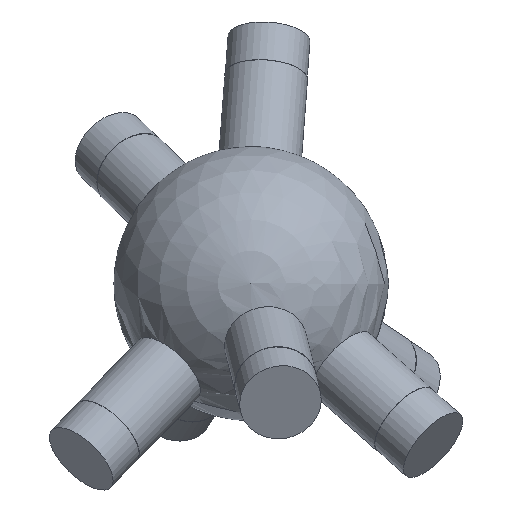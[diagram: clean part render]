
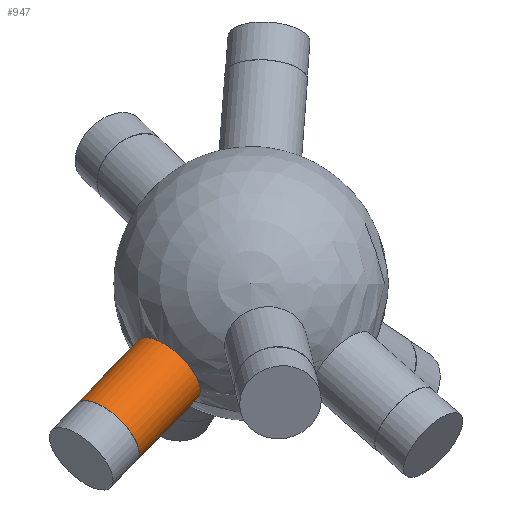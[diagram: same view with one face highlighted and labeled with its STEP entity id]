
A CAD part, top view. The second image highlights one B-rep face of the part: STEP entity #947.
In plain terms, the highlighted cylindrical face has radius 6 mm (diameter 12 mm), a full revolution.
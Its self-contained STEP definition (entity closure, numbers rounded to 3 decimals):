
#35 = SPHERICAL_SURFACE('',#36,20.);
#36 = AXIS2_PLACEMENT_3D('',#37,#38,#39);
#37 = CARTESIAN_POINT('',(0.,0.,0.));
#38 = DIRECTION('',(0.,0.,1.));
#39 = DIRECTION('',(1.,0.,-0.));
#437 = EDGE_CURVE('',#438,#438,#440,.T.);
#438 = VERTEX_POINT('',#439);
#439 = CARTESIAN_POINT('',(-16.306,-8.222,
    8.155));
#440 = SURFACE_CURVE('',#441,(#446,#508),.PCURVE_S1.);
#441 = CIRCLE('',#442,6.);
#442 = AXIS2_PLACEMENT_3D('',#443,#444,#445);
#443 = CARTESIAN_POINT('',(-11.995,-12.394,8.155)
  );
#444 = DIRECTION('',(-0.629,-0.65,0.427));
#445 = DIRECTION('',(0.719,-0.695,0.)
  );
#446 = PCURVE('',#35,#447);
#447 = DEFINITIONAL_REPRESENTATION('',(#448),#507);
#448 = B_SPLINE_CURVE_WITH_KNOTS('',8,(#449,#450,#451,#452,#453,#454,
    #455,#456,#457,#458,#459,#460,#461,#462,#463,#464,#465,#466,#467,
    #468,#469,#470,#471,#472,#473,#474,#475,#476,#477,#478,#479,#480,
    #481,#482,#483,#484,#485,#486,#487,#488,#489,#490,#491,#492,#493,
    #494,#495,#496,#497,#498,#499,#500,#501,#502,#503,#504,#505,#506),
  .UNSPECIFIED.,.F.,.F.,(9,7,7,7,7,7,7,7,9),(3.142,
    3.927,4.614,5.817,6.719,
    7.395,7.903,8.664,9.425),
  .UNSPECIFIED.);
#449 = CARTESIAN_POINT('',(3.609,0.42));
#450 = CARTESIAN_POINT('',(3.613,0.391));
#451 = CARTESIAN_POINT('',(3.621,0.362));
#452 = CARTESIAN_POINT('',(3.632,0.334));
#453 = CARTESIAN_POINT('',(3.646,0.307));
#454 = CARTESIAN_POINT('',(3.662,0.282));
#455 = CARTESIAN_POINT('',(3.681,0.258));
#456 = CARTESIAN_POINT('',(3.702,0.237));
#457 = CARTESIAN_POINT('',(3.744,0.201));
#458 = CARTESIAN_POINT('',(3.766,0.186));
#459 = CARTESIAN_POINT('',(3.788,0.172));
#460 = CARTESIAN_POINT('',(3.812,0.161));
#461 = CARTESIAN_POINT('',(3.837,0.152));
#462 = CARTESIAN_POINT('',(3.862,0.145));
#463 = CARTESIAN_POINT('',(3.888,0.141));
#464 = CARTESIAN_POINT('',(3.959,0.134));
#465 = CARTESIAN_POINT('',(4.005,0.137));
#466 = CARTESIAN_POINT('',(4.05,0.147));
#467 = CARTESIAN_POINT('',(4.094,0.165));
#468 = CARTESIAN_POINT('',(4.134,0.188));
#469 = CARTESIAN_POINT('',(4.17,0.218));
#470 = CARTESIAN_POINT('',(4.201,0.252));
#471 = CARTESIAN_POINT('',(4.246,0.318));
#472 = CARTESIAN_POINT('',(4.262,0.349));
#473 = CARTESIAN_POINT('',(4.274,0.381));
#474 = CARTESIAN_POINT('',(4.282,0.415));
#475 = CARTESIAN_POINT('',(4.286,0.449));
#476 = CARTESIAN_POINT('',(4.285,0.483));
#477 = CARTESIAN_POINT('',(4.279,0.517));
#478 = CARTESIAN_POINT('',(4.26,0.574));
#479 = CARTESIAN_POINT('',(4.249,0.597));
#480 = CARTESIAN_POINT('',(4.234,0.62));
#481 = CARTESIAN_POINT('',(4.217,0.642));
#482 = CARTESIAN_POINT('',(4.197,0.662));
#483 = CARTESIAN_POINT('',(4.174,0.68));
#484 = CARTESIAN_POINT('',(4.148,0.695));
#485 = CARTESIAN_POINT('',(4.098,0.719));
#486 = CARTESIAN_POINT('',(4.075,0.727));
#487 = CARTESIAN_POINT('',(4.052,0.735));
#488 = CARTESIAN_POINT('',(4.027,0.74));
#489 = CARTESIAN_POINT('',(4.001,0.744));
#490 = CARTESIAN_POINT('',(3.975,0.746));
#491 = CARTESIAN_POINT('',(3.949,0.747));
#492 = CARTESIAN_POINT('',(3.885,0.744));
#493 = CARTESIAN_POINT('',(3.846,0.739));
#494 = CARTESIAN_POINT('',(3.809,0.729));
#495 = CARTESIAN_POINT('',(3.775,0.717));
#496 = CARTESIAN_POINT('',(3.743,0.7));
#497 = CARTESIAN_POINT('',(3.715,0.682));
#498 = CARTESIAN_POINT('',(3.69,0.66));
#499 = CARTESIAN_POINT('',(3.649,0.614));
#500 = CARTESIAN_POINT('',(3.632,0.589));
#501 = CARTESIAN_POINT('',(3.619,0.562));
#502 = CARTESIAN_POINT('',(3.61,0.534));
#503 = CARTESIAN_POINT('',(3.605,0.506));
#504 = CARTESIAN_POINT('',(3.603,0.477));
#505 = CARTESIAN_POINT('',(3.604,0.448));
#506 = CARTESIAN_POINT('',(3.609,0.42));
#507 = ( GEOMETRIC_REPRESENTATION_CONTEXT(2) 
PARAMETRIC_REPRESENTATION_CONTEXT() REPRESENTATION_CONTEXT('2D SPACE',''
  ) );
#508 = PCURVE('',#509,#514);
#509 = CYLINDRICAL_SURFACE('',#510,6.);
#510 = AXIS2_PLACEMENT_3D('',#511,#512,#513);
#511 = CARTESIAN_POINT('',(0.,0.,0.));
#512 = DIRECTION('',(-0.629,-0.65,0.427));
#513 = DIRECTION('',(-0.719,0.695,0.)
  );
#514 = DEFINITIONAL_REPRESENTATION('',(#515),#519);
#515 = LINE('',#516,#517);
#516 = CARTESIAN_POINT('',(-3.142,19.079));
#517 = VECTOR('',#518,1.);
#518 = DIRECTION('',(1.,0.));
#519 = ( GEOMETRIC_REPRESENTATION_CONTEXT(2) 
PARAMETRIC_REPRESENTATION_CONTEXT() REPRESENTATION_CONTEXT('2D SPACE',''
  ) );
#947 = ADVANCED_FACE('',(#948),#509,.T.);
#948 = FACE_BOUND('',#949,.T.);
#949 = EDGE_LOOP('',(#950,#973,#1000,#1001));
#950 = ORIENTED_EDGE('',*,*,#951,.T.);
#951 = EDGE_CURVE('',#438,#952,#954,.T.);
#952 = VERTEX_POINT('',#953);
#953 = CARTESIAN_POINT('',(-25.129,-17.338,
    14.153));
#954 = SEAM_CURVE('',#955,(#959,#966),.PCURVE_S1.);
#955 = LINE('',#956,#957);
#956 = CARTESIAN_POINT('',(-4.312,4.173,
    0.));
#957 = VECTOR('',#958,1.);
#958 = DIRECTION('',(-0.629,-0.65,0.427));
#959 = PCURVE('',#509,#960);
#960 = DEFINITIONAL_REPRESENTATION('',(#961),#965);
#961 = LINE('',#962,#963);
#962 = CARTESIAN_POINT('',(6.283,-0.));
#963 = VECTOR('',#964,1.);
#964 = DIRECTION('',(0.,1.));
#965 = ( GEOMETRIC_REPRESENTATION_CONTEXT(2) 
PARAMETRIC_REPRESENTATION_CONTEXT() REPRESENTATION_CONTEXT('2D SPACE',''
  ) );
#966 = PCURVE('',#509,#967);
#967 = DEFINITIONAL_REPRESENTATION('',(#968),#972);
#968 = LINE('',#969,#970);
#969 = CARTESIAN_POINT('',(0.,-0.));
#970 = VECTOR('',#971,1.);
#971 = DIRECTION('',(0.,1.));
#972 = ( GEOMETRIC_REPRESENTATION_CONTEXT(2) 
PARAMETRIC_REPRESENTATION_CONTEXT() REPRESENTATION_CONTEXT('2D SPACE',''
  ) );
#973 = ORIENTED_EDGE('',*,*,#974,.F.);
#974 = EDGE_CURVE('',#952,#952,#975,.T.);
#975 = SURFACE_CURVE('',#976,(#981,#988),.PCURVE_S1.);
#976 = CIRCLE('',#977,6.);
#977 = AXIS2_PLACEMENT_3D('',#978,#979,#980);
#978 = CARTESIAN_POINT('',(-20.818,-21.511,
    14.153));
#979 = DIRECTION('',(-0.629,-0.65,0.427));
#980 = DIRECTION('',(-0.719,0.695,0.)
  );
#981 = PCURVE('',#509,#982);
#982 = DEFINITIONAL_REPRESENTATION('',(#983),#987);
#983 = LINE('',#984,#985);
#984 = CARTESIAN_POINT('',(0.,33.112));
#985 = VECTOR('',#986,1.);
#986 = DIRECTION('',(1.,0.));
#987 = ( GEOMETRIC_REPRESENTATION_CONTEXT(2) 
PARAMETRIC_REPRESENTATION_CONTEXT() REPRESENTATION_CONTEXT('2D SPACE',''
  ) );
#988 = PCURVE('',#989,#994);
#989 = PLANE('',#990);
#990 = AXIS2_PLACEMENT_3D('',#991,#992,#993);
#991 = CARTESIAN_POINT('',(-20.818,-21.511,
    14.153));
#992 = DIRECTION('',(-0.629,-0.65,0.427));
#993 = DIRECTION('',(-0.719,0.695,0.)
  );
#994 = DEFINITIONAL_REPRESENTATION('',(#995),#999);
#995 = CIRCLE('',#996,6.);
#996 = AXIS2_PLACEMENT_2D('',#997,#998);
#997 = CARTESIAN_POINT('',(0.,0.));
#998 = DIRECTION('',(1.,0.));
#999 = ( GEOMETRIC_REPRESENTATION_CONTEXT(2) 
PARAMETRIC_REPRESENTATION_CONTEXT() REPRESENTATION_CONTEXT('2D SPACE',''
  ) );
#1000 = ORIENTED_EDGE('',*,*,#951,.F.);
#1001 = ORIENTED_EDGE('',*,*,#437,.T.);
